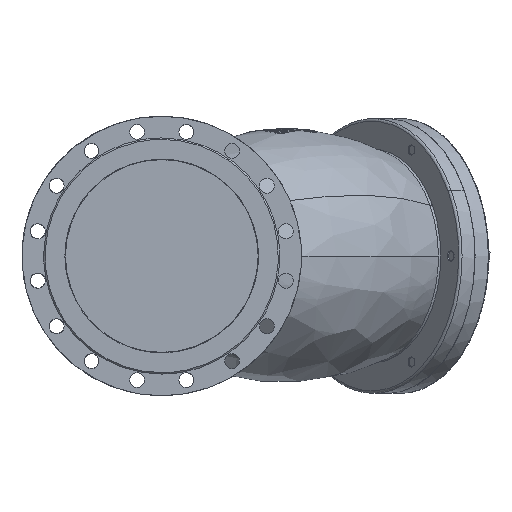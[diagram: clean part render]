
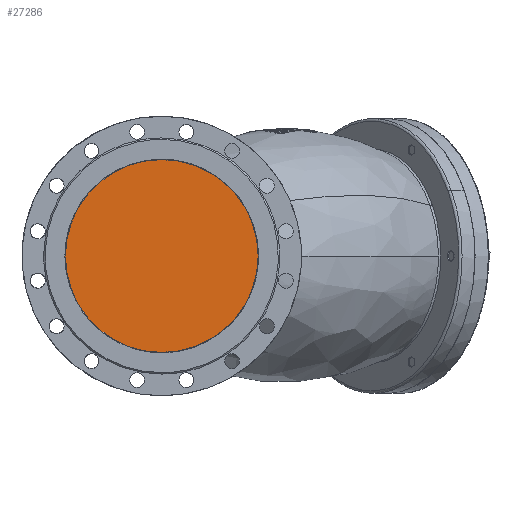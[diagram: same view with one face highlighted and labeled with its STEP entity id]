
A CAD part, left-side view. The second image highlights one B-rep face of the part: STEP entity #27286.
In plain terms, the highlighted planar face has unit normal (-1, 0, 0).
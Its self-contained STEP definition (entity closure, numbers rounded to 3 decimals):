
#1655 = DIRECTION ( 'NONE',  ( -1., 0., 0. ) ) ;
#6824 = VERTEX_POINT ( 'NONE', #35108 ) ;
#13059 = FACE_OUTER_BOUND ( 'NONE', #17997, .T. ) ;
#16937 = DIRECTION ( 'NONE',  ( 0., 0., -1. ) ) ;
#17997 = EDGE_LOOP ( 'NONE', ( #45263 ) ) ;
#18902 = CARTESIAN_POINT ( 'NONE',  ( 19.283, 0., 0. ) ) ;
#19249 = AXIS2_PLACEMENT_3D ( 'NONE', #18902, #39105, #40440 ) ;
#25647 = PLANE ( 'NONE',  #19249 ) ;
#27286 = ADVANCED_FACE ( 'NONE', ( #13059 ), #25647, .F. ) ;
#35108 = CARTESIAN_POINT ( 'NONE',  ( 19.283, 0., -200. ) ) ;
#39105 = DIRECTION ( 'NONE',  ( 1., 0., 0. ) ) ;
#40440 = DIRECTION ( 'NONE',  ( 0., 0., -1. ) ) ;
#45263 = ORIENTED_EDGE ( 'NONE', *, *, #60021, .T. ) ;
#52896 = AXIS2_PLACEMENT_3D ( 'NONE', #63224, #1655, #16937 ) ;
#60021 = EDGE_CURVE ( 'NONE', #6824, #6824, #78743, .T. ) ;
#63224 = CARTESIAN_POINT ( 'NONE',  ( 19.283, 0., 0. ) ) ;
#78743 = CIRCLE ( 'NONE', #52896, 200. ) ;
